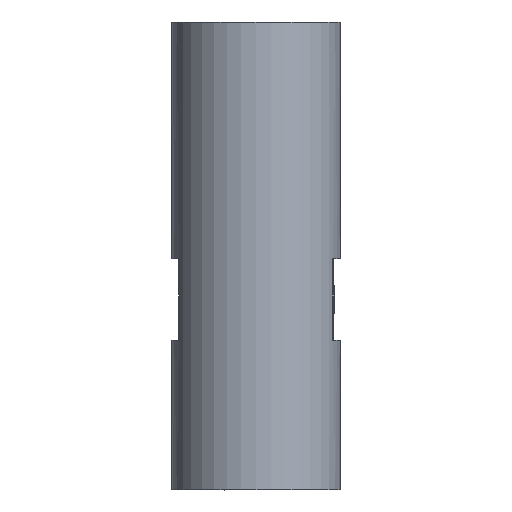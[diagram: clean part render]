
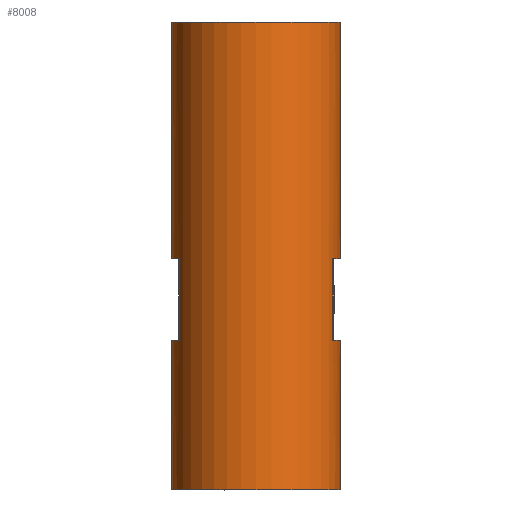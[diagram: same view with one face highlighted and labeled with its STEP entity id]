
A CAD part, front view. The second image highlights one B-rep face of the part: STEP entity #8008.
In plain terms, the highlighted cylindrical face has radius 31 mm (diameter 62 mm), a full revolution.
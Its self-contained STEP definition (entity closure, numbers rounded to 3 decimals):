
#6208=CYLINDRICAL_SURFACE('',#25670,31.);
#6973=B_SPLINE_CURVE_WITH_KNOTS('',3,(#46596,#46597,#46598,#46599,#46600,
#46601,#46602,#46603,#46604,#46605),.UNSPECIFIED.,.F.,.F.,(4,2,2,2,4),(0.,
0.25,0.5,0.75,1.),.UNSPECIFIED.);
#7021=B_SPLINE_CURVE_WITH_KNOTS('',3,(#49021,#49022,#49023,#49024,#49025,
#49026,#49027,#49028,#49029,#49030),.UNSPECIFIED.,.F.,.F.,(4,2,2,2,4),(0.,
0.25,0.5,0.75,1.),.UNSPECIFIED.);
#8008=ADVANCED_FACE('',(#9119,#9120,#9121,#9122,#9123),#6208,.T.);
#9119=FACE_BOUND('',#10350,.T.);
#9120=FACE_BOUND('',#10351,.T.);
#9121=FACE_BOUND('',#10352,.T.);
#9122=FACE_BOUND('',#10353,.T.);
#9123=FACE_BOUND('',#10354,.T.);
#10350=EDGE_LOOP('',(#15776));
#10351=EDGE_LOOP('',(#15777));
#10352=EDGE_LOOP('',(#15778,#15779,#15780,#15781));
#10353=EDGE_LOOP('',(#15782,#15783,#15784,#15785));
#10354=EDGE_LOOP('',(#15786,#15787,#15788,#15789));
#11105=CIRCLE('',#25663,31.);
#11106=CIRCLE('',#25665,31.);
#11107=CIRCLE('',#25666,31.);
#11108=CIRCLE('',#25667,31.);
#11109=CIRCLE('',#25668,31.);
#11110=CIRCLE('',#25669,31.);
#15776=ORIENTED_EDGE('',*,*,#20845,.T.);
#15777=ORIENTED_EDGE('',*,*,#20846,.T.);
#15778=ORIENTED_EDGE('',*,*,#20847,.F.);
#15779=ORIENTED_EDGE('',*,*,#20848,.T.);
#15780=ORIENTED_EDGE('',*,*,#20849,.F.);
#15781=ORIENTED_EDGE('',*,*,#20850,.T.);
#15782=ORIENTED_EDGE('',*,*,#20851,.T.);
#15783=ORIENTED_EDGE('',*,*,#20852,.F.);
#15784=ORIENTED_EDGE('',*,*,#20853,.T.);
#15785=ORIENTED_EDGE('',*,*,#20854,.F.);
#15786=ORIENTED_EDGE('',*,*,#20786,.F.);
#15787=ORIENTED_EDGE('',*,*,#20855,.F.);
#15788=ORIENTED_EDGE('',*,*,#20856,.F.);
#15789=ORIENTED_EDGE('',*,*,#20857,.F.);
#18183=VERTEX_POINT('',#46606);
#18184=VERTEX_POINT('',#46607);
#18225=VERTEX_POINT('',#48999);
#18226=VERTEX_POINT('',#49002);
#18227=VERTEX_POINT('',#49004);
#18228=VERTEX_POINT('',#49005);
#18229=VERTEX_POINT('',#49007);
#18230=VERTEX_POINT('',#49009);
#18231=VERTEX_POINT('',#49012);
#18232=VERTEX_POINT('',#49013);
#18233=VERTEX_POINT('',#49015);
#18234=VERTEX_POINT('',#49017);
#18235=VERTEX_POINT('',#49020);
#18236=VERTEX_POINT('',#49031);
#20786=EDGE_CURVE('',#18183,#18184,#6973,.T.);
#20845=EDGE_CURVE('',#18225,#18225,#11105,.T.);
#20846=EDGE_CURVE('',#18226,#18226,#11106,.T.);
#20847=EDGE_CURVE('',#18227,#18228,#22268,.T.);
#20848=EDGE_CURVE('',#18227,#18229,#11107,.T.);
#20849=EDGE_CURVE('',#18230,#18229,#22269,.T.);
#20850=EDGE_CURVE('',#18230,#18228,#11108,.T.);
#20851=EDGE_CURVE('',#18231,#18232,#11109,.T.);
#20852=EDGE_CURVE('',#18233,#18232,#22270,.T.);
#20853=EDGE_CURVE('',#18233,#18234,#11110,.T.);
#20854=EDGE_CURVE('',#18231,#18234,#22271,.T.);
#20855=EDGE_CURVE('',#18235,#18183,#22272,.T.);
#20856=EDGE_CURVE('',#18236,#18235,#7021,.T.);
#20857=EDGE_CURVE('',#18184,#18236,#22273,.T.);
#22268=LINE('',#49003,#23836);
#22269=LINE('',#49008,#23837);
#22270=LINE('',#49014,#23838);
#22271=LINE('',#49018,#23839);
#22272=LINE('',#49019,#23840);
#22273=LINE('',#49032,#23841);
#23836=VECTOR('',#29830,1.);
#23837=VECTOR('',#29833,1.);
#23838=VECTOR('',#29838,1.);
#23839=VECTOR('',#29841,1.);
#23840=VECTOR('',#29842,1.);
#23841=VECTOR('',#29843,1.);
#25663=AXIS2_PLACEMENT_3D('',#48998,#29824,#29825);
#25665=AXIS2_PLACEMENT_3D('',#49001,#29828,#29829);
#25666=AXIS2_PLACEMENT_3D('',#49006,#29831,#29832);
#25667=AXIS2_PLACEMENT_3D('',#49010,#29834,#29835);
#25668=AXIS2_PLACEMENT_3D('',#49011,#29836,#29837);
#25669=AXIS2_PLACEMENT_3D('',#49016,#29839,#29840);
#25670=AXIS2_PLACEMENT_3D('',#49033,#29844,#29845);
#29824=DIRECTION('',(0.,0.,1.));
#29825=DIRECTION('',(1.,0.,0.));
#29828=DIRECTION('',(0.,0.,-1.));
#29829=DIRECTION('',(1.,0.,0.));
#29830=DIRECTION('',(0.,0.,-1.));
#29831=DIRECTION('',(0.,0.,1.));
#29832=DIRECTION('',(-1.,0.,0.));
#29833=DIRECTION('',(0.,0.,1.));
#29834=DIRECTION('',(0.,0.,-1.));
#29835=DIRECTION('',(-0.915,-0.403,0.));
#29836=DIRECTION('',(0.,0.,1.));
#29837=DIRECTION('',(0.915,-0.403,0.));
#29838=DIRECTION('',(0.,0.,1.));
#29839=DIRECTION('',(0.,0.,-1.));
#29840=DIRECTION('',(1.,0.,0.));
#29841=DIRECTION('',(0.,0.,-1.));
#29842=DIRECTION('',(0.,0.,-1.));
#29843=DIRECTION('',(0.,0.,1.));
#29844=DIRECTION('',(0.,0.,-1.));
#29845=DIRECTION('',(-1.,0.,0.));
#46596=CARTESIAN_POINT('',(13.289,15.5,136.072));
#46597=CARTESIAN_POINT('',(12.023,16.101,133.642));
#46598=CARTESIAN_POINT('',(10.141,16.885,131.637));
#46599=CARTESIAN_POINT('',(5.548,18.089,128.811));
#46600=CARTESIAN_POINT('',(2.789,18.498,128.004));
#46601=CARTESIAN_POINT('',(-2.78,18.502,127.996));
#46602=CARTESIAN_POINT('',(-5.517,18.103,128.78));
#46603=CARTESIAN_POINT('',(-10.179,16.886,131.634));
#46604=CARTESIAN_POINT('',(-12.054,16.101,133.642));
#46605=CARTESIAN_POINT('',(-13.32,15.5,136.072));
#46606=CARTESIAN_POINT('',(13.289,15.5,136.072));
#46607=CARTESIAN_POINT('',(-13.32,15.5,136.072));
#48998=CARTESIAN_POINT('',(-0.016,-12.5,73.));
#48999=CARTESIAN_POINT('',(30.984,-12.5,73.));
#49001=CARTESIAN_POINT('',(-0.016,-12.5,245.));
#49002=CARTESIAN_POINT('',(30.984,-12.5,245.));
#49003=CARTESIAN_POINT('',(-28.384,0.,158.));
#49004=CARTESIAN_POINT('',(-28.384,0.,158.));
#49005=CARTESIAN_POINT('',(-28.384,0.,128.));
#49006=CARTESIAN_POINT('',(-0.016,-12.5,158.));
#49007=CARTESIAN_POINT('',(-28.384,-25.,158.));
#49008=CARTESIAN_POINT('',(-28.384,-25.,128.));
#49009=CARTESIAN_POINT('',(-28.384,-25.,128.));
#49010=CARTESIAN_POINT('',(-0.016,-12.5,128.));
#49011=CARTESIAN_POINT('',(-0.016,-12.5,158.));
#49012=CARTESIAN_POINT('',(28.352,-25.,158.));
#49013=CARTESIAN_POINT('',(28.352,0.,158.));
#49014=CARTESIAN_POINT('',(28.352,0.,128.));
#49015=CARTESIAN_POINT('',(28.352,0.,128.));
#49016=CARTESIAN_POINT('',(-0.016,-12.5,128.));
#49017=CARTESIAN_POINT('',(28.352,-25.,128.));
#49018=CARTESIAN_POINT('',(28.352,-25.,158.));
#49019=CARTESIAN_POINT('',(13.289,15.5,149.928));
#49020=CARTESIAN_POINT('',(13.289,15.5,149.928));
#49021=CARTESIAN_POINT('',(-13.32,15.5,149.928));
#49022=CARTESIAN_POINT('',(-12.055,16.101,152.358));
#49023=CARTESIAN_POINT('',(-10.172,16.885,154.363));
#49024=CARTESIAN_POINT('',(-5.579,18.089,157.189));
#49025=CARTESIAN_POINT('',(-2.82,18.498,157.996));
#49026=CARTESIAN_POINT('',(2.749,18.502,158.004));
#49027=CARTESIAN_POINT('',(5.485,18.103,157.22));
#49028=CARTESIAN_POINT('',(10.148,16.886,154.366));
#49029=CARTESIAN_POINT('',(12.023,16.101,152.358));
#49030=CARTESIAN_POINT('',(13.289,15.5,149.928));
#49031=CARTESIAN_POINT('',(-13.32,15.5,149.928));
#49032=CARTESIAN_POINT('',(-13.32,15.5,136.072));
#49033=CARTESIAN_POINT('',(-0.016,-12.5,253.6));
